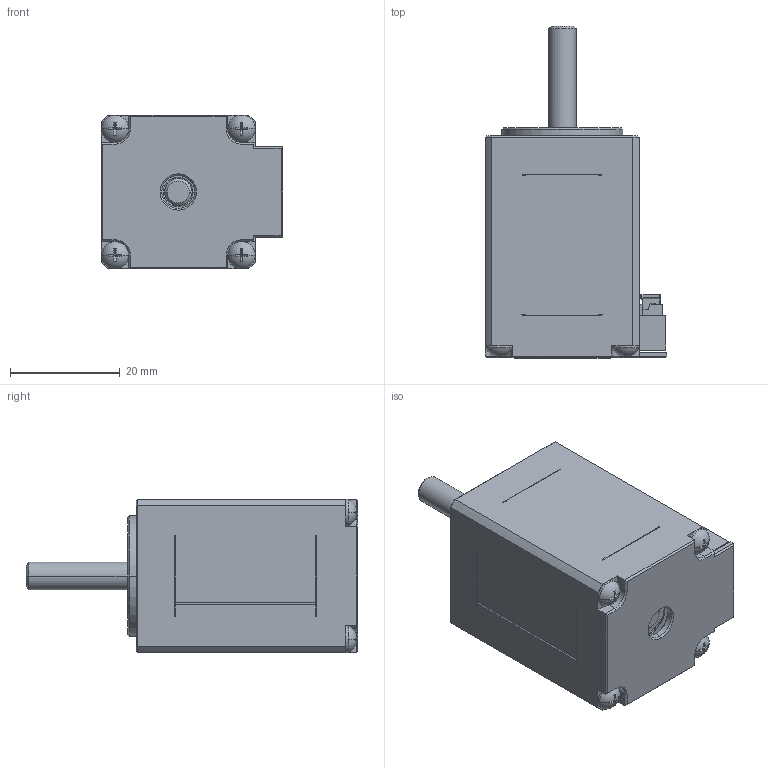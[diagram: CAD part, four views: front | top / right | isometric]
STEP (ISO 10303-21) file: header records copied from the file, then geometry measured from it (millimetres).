
FILE_DESCRIPTION((''),'2;1');
FILE_NAME('28STC40','2020-10-14T10:09:28',('zhangjq'),(''),'CREO PARAMETRIC BY PTC INC, 2017110','CREO PARAMETRIC BY PTC INC, 2017110','');
FILE_SCHEMA(('CONFIG_CONTROL_DESIGN'));
Products named in the file (1): 28STC40
Bounding box: 33 x 60.35 x 28 mm (x, y, z)
Volume: 18929.9 mm3; surface area: 28130.2 mm2
Topology: 3 solids, 3 shells, 2263 faces, 6579 edges, 4155 vertices
Faces by surface type: plane 1646, cylinder 499, cone 64, torus 28, bspline 18, sphere 8
Entity records: 75648 total; most frequent: CARTESIAN_POINT 14764, ORIENTED_EDGE 13158, DIRECTION 12382, EDGE_CURVE 6579, VECTOR 5028, LINE 5028, VERTEX_POINT 4155, AXIS2_PLACEMENT_3D 3677
